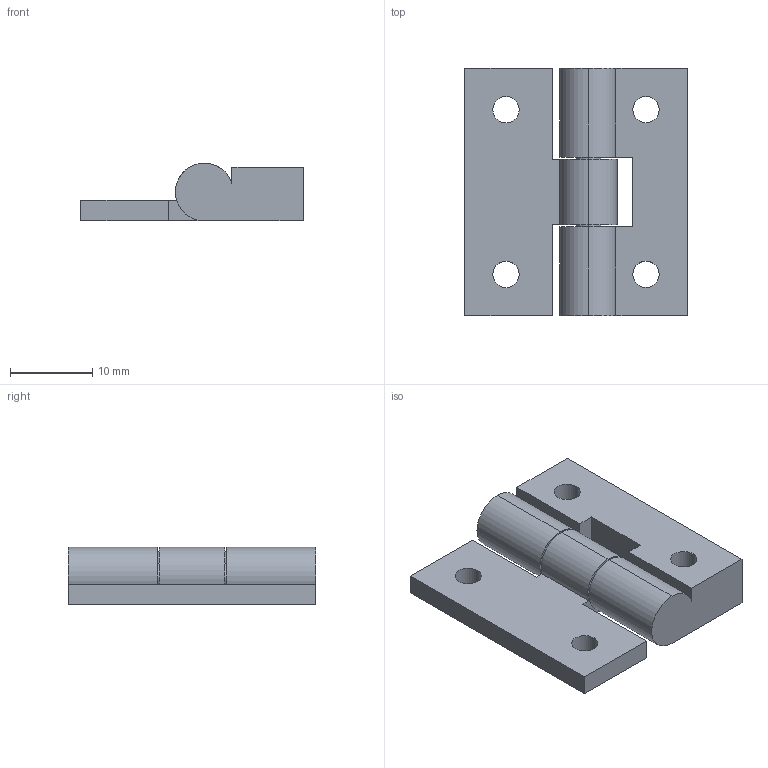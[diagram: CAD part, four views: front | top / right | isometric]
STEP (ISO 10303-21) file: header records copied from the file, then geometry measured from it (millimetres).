
FILE_DESCRIPTION (( 'STEP AP214' ), '1' );
FILE_NAME ('hingefortopsmall.STEP', '2025-06-15T00:42:35', ( '' ), ( '' ), 'SwSTEP 2.0', 'SolidWorks 2024', '' );
FILE_SCHEMA (( 'AUTOMOTIVE_DESIGN' ));
Length unit declared in the file: millimetre
Products named in the file (1): hingefortopsmall
Bounding box: 27 x 30 x 7 mm (x, y, z)
Volume: 3400.1 mm3; surface area: 2842.7 mm2
Topology: 2 solids, 2 shells, 39 faces, 105 edges, 70 vertices
Faces by surface type: plane 21, cylinder 18
Entity records: 1287 total; most frequent: DIRECTION 221, CARTESIAN_POINT 215, ORIENTED_EDGE 210, EDGE_CURVE 105, AXIS2_PLACEMENT_3D 76, VERTEX_POINT 70, LINE 69, VECTOR 69
